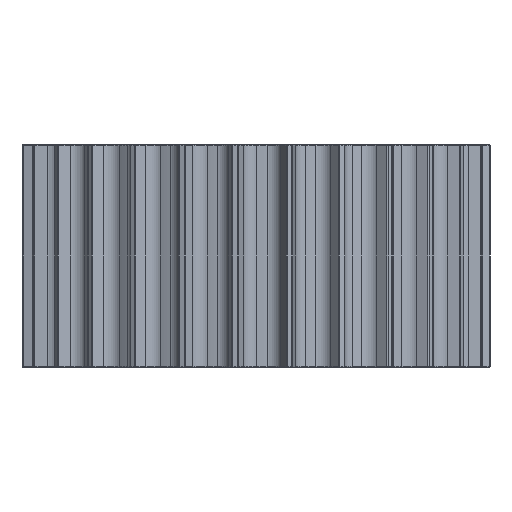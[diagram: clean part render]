
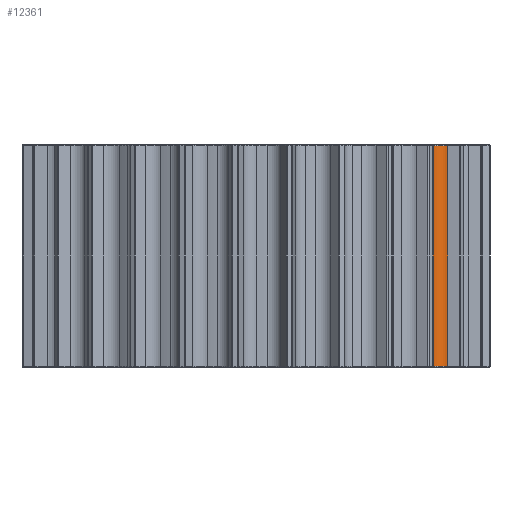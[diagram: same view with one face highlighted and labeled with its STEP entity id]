
A CAD part, front view. The second image highlights one B-rep face of the part: STEP entity #12361.
In plain terms, the highlighted cylindrical face has radius 5.084 mm (diameter 10.167 mm), a partial arc.
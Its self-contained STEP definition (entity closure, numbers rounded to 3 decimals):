
#826=CARTESIAN_POINT('',(67.558,-44.902,-39.3));
#827=DIRECTION('',(0.,0.,1.));
#828=DIRECTION('',(0.162,0.987,0.));
#829=AXIS2_PLACEMENT_3D('',#826,#827,#828);
#3124=DIRECTION('',(0.,0.,1.));
#3125=VECTOR('',#3124,78.6);
#3126=CARTESIAN_POINT('',(68.381,-39.885,-39.3));
#3127=LINE('',#3126,#3125);
#3128=DIRECTION('',(0.,0.,1.));
#3129=VECTOR('',#3128,78.6);
#3130=CARTESIAN_POINT('',(63.324,-42.088,-39.3));
#3131=LINE('',#3130,#3129);
#5568=CARTESIAN_POINT('',(67.558,-44.902,39.3));
#5569=DIRECTION('',(0.,0.,-1.));
#5570=DIRECTION('',(-0.833,0.554,0.));
#5571=AXIS2_PLACEMENT_3D('',#5568,#5569,#5570);
#6895=CARTESIAN_POINT('',(63.324,-42.088,-39.3));
#6896=CARTESIAN_POINT('',(63.324,-42.088,39.3));
#6897=VERTEX_POINT('',#6895);
#6898=VERTEX_POINT('',#6896);
#6899=CARTESIAN_POINT('',(68.381,-39.885,-39.3));
#6900=CARTESIAN_POINT('',(68.381,-39.885,39.3));
#6901=VERTEX_POINT('',#6899);
#6902=VERTEX_POINT('',#6900);
#12348=CARTESIAN_POINT('',(67.558,-44.902,-39.7));
#12349=DIRECTION('',(0.,0.,1.));
#12350=DIRECTION('',(0.88,-0.475,0.));
#12351=AXIS2_PLACEMENT_3D('',#12348,#12349,#12350);
#12352=CYLINDRICAL_SURFACE('',#12351,5.084);
#12354=ORIENTED_EDGE('',*,*,#12353,.T.);
#12356=ORIENTED_EDGE('',*,*,#12355,.T.);
#12357=ORIENTED_EDGE('',*,*,#12339,.F.);
#12358=ORIENTED_EDGE('',*,*,#9356,.T.);
#12359=EDGE_LOOP('',(#12354,#12356,#12357,#12358));
#12360=FACE_OUTER_BOUND('',#12359,.F.);
#12361=ADVANCED_FACE('',(#12360),#12352,.F.);
#830=CIRCLE('',#829,5.084);
#5572=CIRCLE('',#5571,5.084);
#9356=EDGE_CURVE('',#6901,#6897,#830,.T.);
#12339=EDGE_CURVE('',#6901,#6902,#3127,.T.);
#12353=EDGE_CURVE('',#6897,#6898,#3131,.T.);
#12355=EDGE_CURVE('',#6898,#6902,#5572,.T.);
